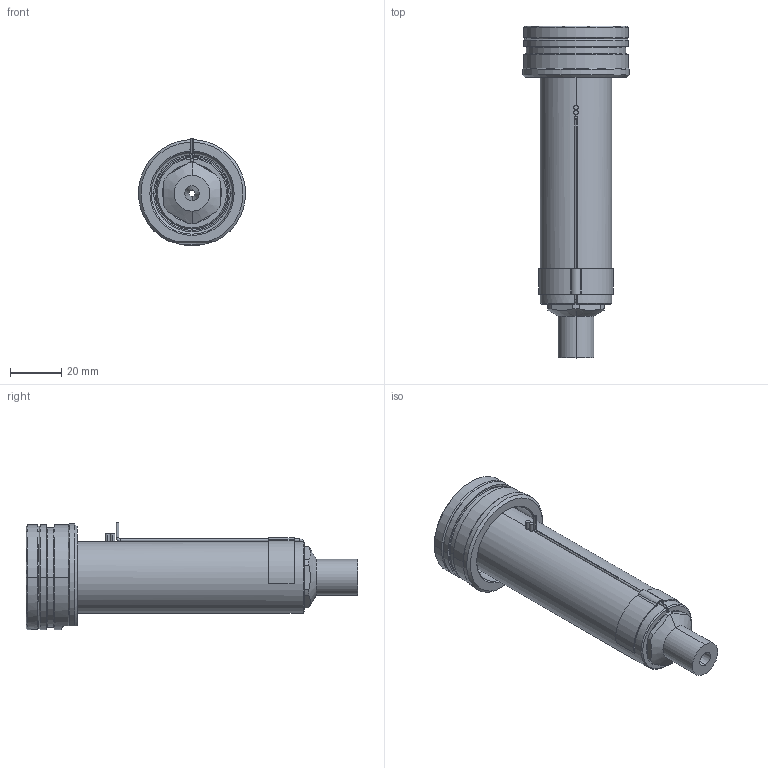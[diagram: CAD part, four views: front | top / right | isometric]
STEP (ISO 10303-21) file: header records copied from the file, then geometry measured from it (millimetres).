
FILE_DESCRIPTION((''),'2;1');
FILE_NAME('EO10_VG-ST_ESG_100_SW','2024-02-19T12:48:26',('sundharh'),(''),'CREO PARAMETRIC BY PTC INC, 2023154','CREO PARAMETRIC BY PTC INC, 2023154','');
FILE_SCHEMA(('CONFIG_CONTROL_DESIGN'));
Length unit declared in the file: millimetre
Products named in the file (1): EO10_VG-ST_ESG_100_SW
Bounding box: 41.85 x 130 x 42.02 mm (x, y, z)
Volume: 74056.4 mm3; surface area: 20844.4 mm2
Topology: 1 solids, 1 shells, 165 faces, 424 edges, 263 vertices
Faces by surface type: cylinder 63, plane 45, cone 33, torus 17, bspline 5, sphere 2
Entity records: 5773 total; most frequent: CARTESIAN_POINT 1669, DIRECTION 895, ORIENTED_EDGE 844, EDGE_CURVE 422, AXIS2_PLACEMENT_3D 369, VERTEX_POINT 263, CIRCLE 209, EDGE_LOOP 179
